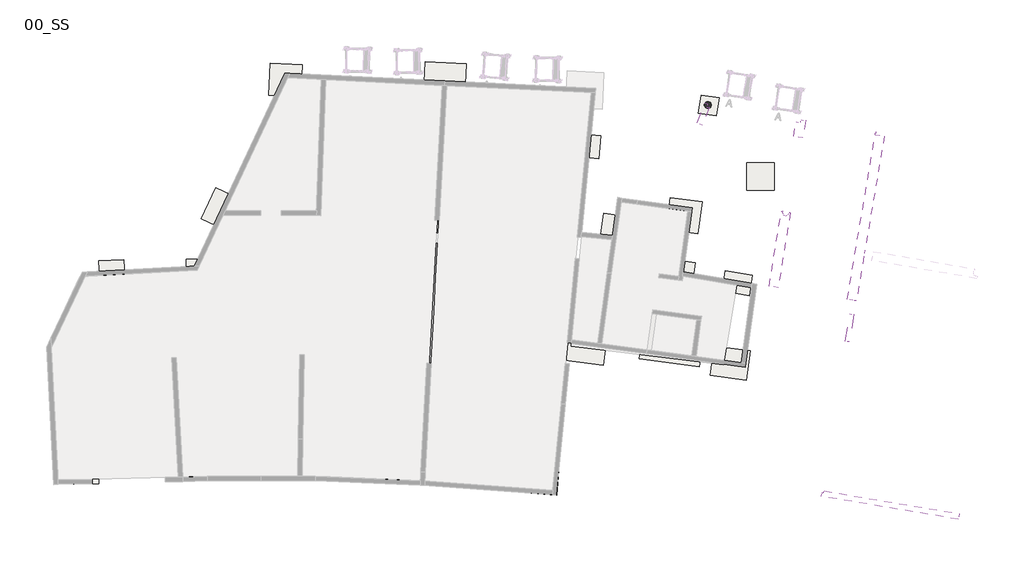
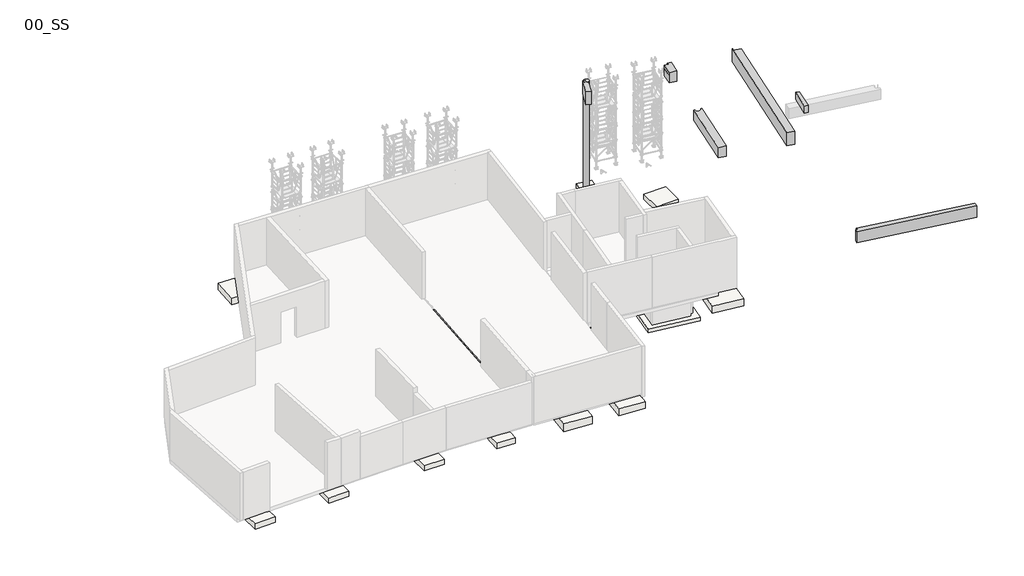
# One storey, part 2 of 4: 27 slabs, 8 beams, 1 column.
"""IFC4 building model written with IfcOpenShell, lengths in millimetres."""

import ifcopenshell
import ifcopenshell.guid

model = None  # the IFC model being written
_history = None  # IfcOwnerHistory: only IFC2X3 demands one
_inside = {}  # id of a spatial element -> (the spatial element, [elements in it])
_under = {}  # id of a project, library or spatial element -> (it, [spatial elements below it])
_declared = {}  # id of a project -> (the project, [libraries it declares])
_typed = {}  # id of a type object -> (the type object, [elements of that type])
_made_of = {}  # id of a material, layer set ... -> (it, [elements and type objects made of it])


def new_model(schema):
    """Start an empty IFC model of exactly this schema.

    Asked for "IFC4X3", IfcOpenShell would pick the latest addendum, in which some entities
    have other attributes; the version numbers below select the first issue.
    IFC2X3 requires an IfcOwnerHistory on every rooted entity: one is made here for all.
    """
    global model, _history
    if schema == "IFC4X3":
        model = ifcopenshell.file(schema_version=(4, 3, 0, 0))
    else:
        model = ifcopenshell.file(schema=schema)
    _inside.clear()
    _under.clear()
    _declared.clear()
    _typed.clear()
    _made_of.clear()
    _history = None
    if model.schema == "IFC2X3":
        org = make("IfcOrganization", Name="unknown")
        user = make(
            "IfcPersonAndOrganization",
            ThePerson=make("IfcPerson", FamilyName="unknown"),
            TheOrganization=org,
        )
        app = make(
            "IfcApplication",
            ApplicationDeveloper=org,
            Version="unknown",
            ApplicationFullName="unknown",
            ApplicationIdentifier="unknown",
        )
        _history = make(
            "IfcOwnerHistory",
            OwningUser=user,
            OwningApplication=app,
            ChangeAction="ADDED",
            CreationDate=0,
        )
    return model


def make(cls, **values):
    """One entity of the class cls with the attributes given. An attribute that is None is left unset."""
    return model.create_entity(
        cls, **{name: value for name, value in values.items() if value is not None}
    )


def rooted(cls, **values):
    """An entity with a GlobalId (a new one), such as an element, a storey or a relation."""
    return make(cls, GlobalId=ifcopenshell.guid.new(), OwnerHistory=_history, **values)


def si_unit(unit_type, name, prefix=None):
    """IfcSIUnit, for example si_unit("LENGTHUNIT", "METRE", prefix="MILLI")."""
    return make("IfcSIUnit", UnitType=unit_type, Prefix=prefix, Name=name)


def assignment(units):
    """IfcUnitAssignment: the units of a project."""
    return None if units is None else make("IfcUnitAssignment", Units=units)


def point(xyz):
    """IfcCartesianPoint."""
    return None if xyz is None else make("IfcCartesianPoint", Coordinates=xyz)


def direction(xyz):
    """IfcDirection."""
    return None if xyz is None else make("IfcDirection", DirectionRatios=xyz)


def frame(location, z_axis=None, x_axis=None):
    """IfcAxis2Placement3D, a coordinate frame: its origin and axes. An axis left out is left unset."""
    return make(
        "IfcAxis2Placement3D",
        Location=point(location),
        Axis=direction(z_axis),
        RefDirection=direction(x_axis),
    )


def frame_2d(location, x_axis=None):
    """IfcAxis2Placement2D, a coordinate frame in the plane: its origin and x axis."""
    return make(
        "IfcAxis2Placement2D", Location=point(location), RefDirection=direction(x_axis)
    )


def origin():
    """The frame at (0, 0, 0) with its axes left unset."""
    return frame((0.0, 0.0, 0.0))


def place(relative_to, where):
    """IfcLocalPlacement: puts the frame where relative to a parent placement (None: the world)."""
    return make(
        "IfcLocalPlacement", PlacementRelTo=relative_to, RelativePlacement=where
    )


def context(
    kind, dimensions, precision=None, world=None, true_north=None, identifier=None
):
    """IfcGeometricRepresentationContext, for example the 3D "Model" context."""
    return make(
        "IfcGeometricRepresentationContext",
        ContextIdentifier=identifier,
        ContextType=kind,
        CoordinateSpaceDimension=dimensions,
        Precision=precision,
        WorldCoordinateSystem=world,
        TrueNorth=true_north,
    )


def project(units=None, contexts=None):
    """IfcProject with its units and contexts."""
    return rooted(
        "IfcProject",
        Name="project",
        RepresentationContexts=contexts,
        UnitsInContext=assignment(units),
    )


def spatial(cls, under=None, at=None, **own):
    """A site, building, storey or space (cls), placed at a placement, below another one or the project."""
    s = rooted(cls, ObjectPlacement=at, **own)
    if under is not None:
        _under.setdefault(under.id(), (under, []))[1].append(s)
    return s


def polyline(points):
    """IfcPolyline through the points."""
    return make("IfcPolyline", Points=[point(p) for p in points])


def circle_curve(where, radius):
    """IfcCircle in the frame where."""
    return make("IfcCircle", Position=where, Radius=radius)


def trimmed(basis, trim1, trim2, sense, master):
    """IfcTrimmedCurve: the piece of a basis curve between two trims."""
    return make(
        "IfcTrimmedCurve",
        BasisCurve=basis,
        Trim1=trim1,
        Trim2=trim2,
        SenseAgreement=sense,
        MasterRepresentation=master,
    )


def segment(curve, same_sense, transition):
    """IfcCompositeCurveSegment."""
    return make(
        "IfcCompositeCurveSegment",
        Transition=transition,
        SameSense=same_sense,
        ParentCurve=curve,
    )


def composite_curve(segments, self_intersect=None):
    """IfcCompositeCurve: segments joined end to end."""
    return make("IfcCompositeCurve", Segments=segments, SelfIntersect=self_intersect)


def outline(outer, holes=None, kind="AREA"):
    """IfcArbitraryClosedProfileDef: a profile drawn as a closed curve; with holes, ...WithVoids."""
    if holes is None:
        return make("IfcArbitraryClosedProfileDef", ProfileType=kind, OuterCurve=outer)
    return make(
        "IfcArbitraryProfileDefWithVoids",
        ProfileType=kind,
        OuterCurve=outer,
        InnerCurves=holes,
    )


def extrude(swept, where, along, depth):
    """IfcExtrudedAreaSolid: the profile swept, set in the frame where, extruded along a direction by depth."""
    return make(
        "IfcExtrudedAreaSolid",
        SweptArea=swept,
        Position=where,
        ExtrudedDirection=direction(along),
        Depth=depth,
    )


def faces_of(points, faces, orient=None, outer=None):
    """IfcFace entities. A face is a list of loops; a loop is a list of indices into points, from 0.

    orient and outer hold one flag for each loop. By default every Orientation is true, the
    first loop of a face is its IfcFaceOuterBound and the others are IfcFaceBound.
    """
    made = []
    for i, loops in enumerate(faces):
        bounds = []
        for j, loop in enumerate(loops):
            is_outer = j == 0 if outer is None else outer[i][j]
            bounds.append(
                make(
                    "IfcFaceOuterBound" if is_outer else "IfcFaceBound",
                    Bound=make("IfcPolyLoop", Polygon=[points[k] for k in loop]),
                    Orientation=True if orient is None else orient[i][j],
                )
            )
        made.append(make("IfcFace", Bounds=bounds))
    return made


def faceted_brep(points, faces, orient=None, outer=None, voids=None):
    """IfcFacetedBrep: a solid bounded by flat faces; with voids (closed shells), ...WithVoids."""
    shared = [point(p) for p in points]
    hull = make("IfcClosedShell", CfsFaces=faces_of(shared, faces, orient, outer))
    if voids is None:
        return make("IfcFacetedBrep", Outer=hull)
    return make(
        "IfcFacetedBrepWithVoids",
        Outer=hull,
        Voids=[
            make(cls, CfsFaces=faces_of(shared, fs, o, b)) for cls, fs, o, b in voids
        ],
    )


def shape(context_of_items, identifier, shape_type, items):
    """IfcShapeRepresentation: the items that make up one representation, for example the "Body"."""
    return make(
        "IfcShapeRepresentation",
        ContextOfItems=context_of_items,
        RepresentationIdentifier=identifier,
        RepresentationType=shape_type,
        Items=items,
    )


def source(mapping_origin, context_of_items, identifier, shape_type, items):
    """IfcRepresentationMap: a shape defined once, which mapped items show again and again."""
    return make(
        "IfcRepresentationMap",
        MappingOrigin=mapping_origin,
        MappedRepresentation=shape(context_of_items, identifier, shape_type, items),
    )


def transform(
    local_origin,
    x_axis=None,
    y_axis=None,
    z_axis=None,
    scale=None,
    scale2=None,
    scale3=None,
    uniform=True,
):
    """IfcCartesianTransformationOperator3D, or its non-uniform kind. x_axis, y_axis, z_axis: its Axis1, 2, 3."""
    if uniform:
        return make(
            "IfcCartesianTransformationOperator3D",
            Axis1=direction(x_axis),
            Axis2=direction(y_axis),
            LocalOrigin=point(local_origin),
            Scale=scale,
            Axis3=direction(z_axis),
        )
    return make(
        "IfcCartesianTransformationOperator3DnonUniform",
        Axis1=direction(x_axis),
        Axis2=direction(y_axis),
        LocalOrigin=point(local_origin),
        Scale=scale,
        Axis3=direction(z_axis),
        Scale2=scale2,
        Scale3=scale3,
    )


def mapped(mapping_source, mapping_target):
    """IfcMappedItem: shows the shape of a source again, moved by a transform."""
    return make(
        "IfcMappedItem", MappingSource=mapping_source, MappingTarget=mapping_target
    )


def made_of(thing, what):
    """Note that an element or type object is made of a material, layer set ...; save() writes the relation."""
    if what is not None:
        _made_of.setdefault(what.id(), (what, []))[1].append(thing)
    return thing


def element(
    cls,
    number,
    at=None,
    inside=None,
    cuts=None,
    type_object=None,
    material=None,
    context=None,
    identifier="Body",
    shape_type=None,
    held_by="IfcProductDefinitionShape",
    body=None,
    shapes=None,
    **own,
):
    """One element of the class cls, such as IfcWall. Its Tag is "e" and its number.

    at: its placement. inside: the storey or other place that contains it. cuts: it is an
    opening in that element (IfcRelVoidsElement). A single representation is given by context,
    identifier, shape_type and body (its items); several are given by shapes. held_by: the class
    of the entity that holds the representations. save() writes the other relations.
    """
    e = rooted(cls, Tag="e%d" % number, ObjectPlacement=at, **own)
    if body is not None:
        shapes = [shape(context, identifier, shape_type, body)]
    if shapes is not None:
        e.Representation = make(held_by, Representations=shapes)
    if inside is not None:
        _inside.setdefault(inside.id(), (inside, []))[1].append(e)
    if cuts is not None:
        rooted(
            "IfcRelVoidsElement", RelatingBuildingElement=cuts, RelatedOpeningElement=e
        )
    if type_object is not None:
        _typed.setdefault(type_object.id(), (type_object, []))[1].append(e)
    return made_of(e, material)


def aggregate(whole, parts):
    """IfcRelAggregates: a whole, such as a stair, and the parts it consists of."""
    return rooted("IfcRelAggregates", RelatingObject=whole, RelatedObjects=parts)


def save(model, path):
    """Write the relations noted so far, then the file.

    IfcRelAggregates (storeys below a building ...), IfcRelContainedInSpatialStructure (elements
    in a storey), IfcRelDefinesByType, IfcRelAssociatesMaterial and IfcRelDeclares: one each for
    every whole, place, type object, material and project.
    """
    for whole, parts in _under.values():
        aggregate(whole, parts)
    for where, things in _inside.values():
        rooted(
            "IfcRelContainedInSpatialStructure",
            RelatedElements=things,
            RelatingStructure=where,
        )
    for kind, things in _typed.values():
        rooted("IfcRelDefinesByType", RelatedObjects=things, RelatingType=kind)
    for what, things in _made_of.values():
        rooted("IfcRelAssociatesMaterial", RelatedObjects=things, RelatingMaterial=what)
    for by, libraries in _declared.values():
        rooted("IfcRelDeclares", RelatingContext=by, RelatedDefinitions=libraries)
    model.write(path)


def plane_surface(at):
    """IfcPlane: the flat surface through the origin of the frame at, square to its z axis."""
    return make("IfcPlane", Position=at)


def cylinder_surface(at, radius):
    """IfcCylindricalSurface: all points at the distance radius from the z axis of the frame at."""
    return make("IfcCylindricalSurface", Position=at, Radius=radius)


def revolved_surface(curve, axis_point, axis_direction):
    """IfcSurfaceOfRevolution: the curve turned about the line through axis_point along axis_direction."""
    return make(
        "IfcSurfaceOfRevolution",
        SweptCurve=make("IfcArbitraryOpenProfileDef", ProfileType="CURVE", Curve=curve),
        AxisPosition=make("IfcAxis1Placement", Location=point(axis_point), Axis=direction(axis_direction)),
    )


def advanced_brep(points, edges, surfaces, faces):
    """IfcAdvancedBrep: a solid bounded by faces that lie on surfaces and meet in shared edges.

    An edge is (start, end): straight between two places in points (the first is 0);
    or (start, end, curve); or (start, end, curve, False) where it runs against its curve.
    A face is (place in surfaces, loops), or (place, loops, False) where it looks against
    its surface's normal. A loop lists edges by number (the first is 1), with a minus sign
    where the edge is run from its end to its start. The first loop is the outer one.
    """
    corners = [point(p) for p in points]
    vertices = [make("IfcVertexPoint", VertexGeometry=c) for c in corners]
    made = []
    for start, end, *more in edges:
        made.append(
            make(
                "IfcEdgeCurve",
                EdgeStart=vertices[start],
                EdgeEnd=vertices[end],
                EdgeGeometry=more[0] if more else make("IfcPolyline", Points=[corners[start], corners[end]]),
                SameSense=more[1] if len(more) > 1 else True,
            )
        )
    hull = []
    for where, loops, *sense in faces:
        bounds = []
        for j, loop in enumerate(loops):
            ring = [make("IfcOrientedEdge", EdgeElement=made[abs(k) - 1], Orientation=k > 0) for k in loop]
            bounds.append(
                make(
                    "IfcFaceOuterBound" if j == 0 else "IfcFaceBound",
                    Bound=make("IfcEdgeLoop", EdgeList=ring),
                    Orientation=True,
                )
            )
        hull.append(make("IfcAdvancedFace", Bounds=bounds, FaceSurface=surfaces[where], SameSense=sense[0] if sense else True))
    return make("IfcAdvancedBrep", Outer=make("IfcClosedShell", CfsFaces=hull))


def base_rectangulaire_120x120x30_ht_74231e7a(model_context):
    return source(origin(), model_context, "Body", "SweptSolid", [
        extrude(outline(polyline([(600.0, 600.0), (600.0, -600.0), (-600.0, -600.0), (-600.0, 600.0), (600.0, 600.0)])), frame((0.0, 0.0, -300.0), z_axis=(0.0, 0.0, 1.0), x_axis=(1.0, 0.0, 0.0)), (0.0, 0.0, 1.0), 300.0),
        extrude(outline(polyline([(600.0, 600.0), (600.0, -600.0), (-600.0, -600.0), (-600.0, 600.0), (600.0, 600.0)])), frame((0.0, 0.0, -300.0), z_axis=(0.0, 0.0, 1.0), x_axis=(1.0, 0.0, 0.0)), (0.0, 0.0, 1.0), 300.0),
    ])


def base_rectangulaire_80x80x25_cm_97e52a6d(model_context):
    return source(origin(), model_context, "Body", "SweptSolid", [
        extrude(outline(polyline([(400.0, 400.0), (400.0, -400.0), (-400.0, -400.0), (-400.0, 400.0), (400.0, 400.0)])), frame((0.0, 0.0, -250.0), z_axis=(0.0, 0.0, 1.0), x_axis=(1.0, 0.0, 0.0)), (0.0, 0.0, 1.0), 250.0),
        extrude(outline(polyline([(400.0, 400.0), (400.0, -400.0), (-400.0, -400.0), (-400.0, 400.0), (400.0, 400.0)])), frame((0.0, 0.0, -250.0), z_axis=(0.0, 0.0, 1.0), x_axis=(1.0, 0.0, 0.0)), (0.0, 0.0, 1.0), 250.0),
    ])


model = new_model("IFC4")

# Units and contexts
model_context = context("Model", 3, world=origin())
ifc_project = project(units=[si_unit("LENGTHUNIT", "METRE", prefix="MILLI")], contexts=[model_context])

# Site, building, storey
site = spatial("IfcSite", under=ifc_project)
building = spatial("IfcBuilding", under=site)
storey = spatial("IfcBuildingStorey", under=building, Name="00_SS", Elevation=18790.0)

# Beams
placement = place(None, origin())
element("IfcBeam", 1, ObjectType="Poutre_Rect_2013_JBE : 18x40ht", at=placement, inside=storey, context=model_context, shape_type="SweptSolid", body=[
    extrude(outline(polyline([(17601.2414169, 6572.4223416), (17778.7010793, 6542.2881711), (17574.2069358, 5338.0253348), (17396.7472734, 5368.1595053), (17601.2414169, 6572.4223416)])), frame((0.0, 0.0, 26740.0), z_axis=(0.0, 0.0, 1.0), x_axis=(1.0, 0.0, 0.0)), (0.0, 0.0, 1.0), 400.0),
])
element("IfcBeam", 2, ObjectType="Poutre_Rect_2013_JBE : 20x30ht", at=placement, inside=storey, context=model_context, shape_type="Brep", body=[
    faceted_brep([(-615.0365712, 10667.0527318, 18790.0), (-615.0365712, 10667.0527318, 18490.0), (-415.3478317, 10655.8989288, 18490.0), (-415.3478317, 10655.8989288, 18790.0), (-419.7542084, 10656.1450511, 18790.0), (-504.6637613, 10660.8877544, 18790.0), (-598.3058999, 10966.5852469, 18790.0), (-323.2184248, 15891.5306771, 18790.0), (-323.2184248, 15891.5306771, 18490.0), (-598.3058999, 10966.5852469, 18490.0), (-123.5296853, 15880.3768741, 18490.0), (-398.6172116, 10955.4305282, 18490.0), (-123.5296853, 15880.3768741, 18790.0), (-398.6172116, 10955.4305282, 18790.0)], [[[0, 1, 2, 3, 4, 5]], [[1, 0, 6, 7, 8, 9]], [[2, 1, 9, 8, 10, 11]], [[3, 2, 11, 10, 12, 13]], [[0, 5, 4, 3, 13, 12, 7, 6]], [[7, 12, 10, 8]]]),
])
element("IfcBeam", 3, ObjectType="Poutre_Rect_2013_JBE : 25x65ht", at=placement, inside=storey, context=model_context, shape_type="Brep", body=[
    faceted_brep([(16344.3743046, -1433.5815692, 24340.0), (16344.3743046, -1433.5815692, 24280.0), (16344.3743046, -1433.5815692, 23690.0), (22361.9624906, -2445.4482204, 23690.0), (22361.9624906, -2445.4482204, 24340.0), (16371.1345917, -1275.9195319, 23690.0), (16450.0385, -1289.1183842, 23690.0), (16465.1015456, -1200.3723087, 23690.0), (22403.4183767, -2198.9093604, 23690.0), (16465.1015456, -1200.3723087, 24240.0), (16465.1015456, -1200.3723087, 24340.0), (22403.4183767, -2198.9093604, 24340.0), (16371.1345917, -1275.9195319, 24340.0), (16450.0385, -1289.1183842, 24340.0)], [[[0, 1, 2, 3, 4]], [[2, 5, 6, 7, 8, 3]], [[7, 9, 10, 11, 8]], [[12, 0, 4, 11, 10, 13]], [[5, 2, 1, 0, 12]], [[7, 6, 13, 10, 9]], [[6, 5, 12, 13]], [[4, 3, 8, 11]]]),
])
element("IfcBeam", 4, ObjectType="Poutre_Rect_2013_JBE : 25x75ht", at=placement, inside=storey, context=model_context, shape_type="Brep", body=[
    faceted_brep([(10895.3530696, 14941.286648, 24440.0), (11243.8153276, 15825.0705892, 24440.0), (11243.8153276, 15825.0705892, 23690.0), (10895.3530696, 14941.286648, 23690.0), (11351.253548, 15782.7093704, 23690.0), (11327.9243381, 15640.5543865, 23690.0), (11432.9955156, 15623.3110406, 23690.0), (11127.9277909, 14849.5860537, 23690.0), (11432.9955156, 15623.3110406, 24240.0), (11432.9955156, 15623.3110406, 24440.0), (11127.9277909, 14849.5860537, 24440.0), (11127.9277909, 14849.5860537, 24240.0), (11327.9243381, 15640.5543865, 24440.0), (11351.253548, 15782.7093704, 24440.0)], [[[0, 1, 2, 3]], [[3, 2, 4, 5, 6, 7]], [[7, 6, 8, 9, 10, 11]], [[1, 0, 10, 9, 12, 13]], [[5, 12, 9, 8, 6]], [[12, 5, 4, 13]], [[2, 1, 13, 4]], [[0, 3, 7, 11, 10]]]),
])
element("IfcBeam", 5, ObjectType="Poutre_Rect_2013_JBE : 30x50ht", at=placement, inside=storey, context=model_context, shape_type="Brep", body=[
    faceted_brep([(-720.7337436, 9671.3974523, 18790.0), (-720.7337436, 9671.3974523, 18490.0), (-1031.3275086, 4111.2337961, 18490.0), (-1031.3275086, 4111.2337961, 18790.0), (-421.2007111, 9654.6653743, 18490.0), (-729.2137558, 4140.7010581, 18490.0), (-796.2003206, 4105.9568005, 18490.0), (-1004.6119708, 4183.2598212, 18490.0), (-421.2007111, 9654.6653743, 18790.0), (-729.2137558, 4140.7010581, 18790.0), (-560.139158, 9662.4265515, 18990.0), (-867.3943889, 4132.363753, 18990.0), (-796.2003206, 4105.9568005, 18990.0), (-782.8980776, 4112.8563416, 18990.0), (-638.6403533, 6688.9050649, 18990.0), (-558.7857365, 8167.2410971, 18990.0), (-475.5278851, 9657.7001198, 18990.0), (-560.139158, 9662.4265515, 18790.0), (-475.5278851, 9657.7001198, 18790.0), (-1004.6119708, 4183.2598212, 18790.0), (-867.3943889, 4132.363753, 18790.0), (-782.8980776, 4112.8563416, 18790.0), (-558.7857365, 8167.2410971, 18790.0), (-638.6403533, 6688.9050649, 18790.0)], [[[0, 1, 2, 3]], [[1, 4, 5, 6, 7, 2]], [[5, 4, 8, 9]], [[10, 11, 12, 13, 14, 15, 16]], [[4, 1, 0, 17, 10, 16, 18, 8]], [[17, 0, 3, 19, 20]], [[6, 5, 9, 21, 13, 12]], [[19, 7, 6, 12, 11, 20]], [[7, 19, 3, 2]], [[10, 17, 20, 11]], [[22, 23, 21, 9, 8, 18]], [[23, 14, 13, 21]], [[23, 22, 15, 14]], [[15, 22, 18, 16]]]),
])
element("IfcBeam", 6, ObjectType="Poutre_Rect_2013_JBE : 40x60ht", at=placement, inside=storey, context=model_context, shape_type="Brep", body=[
    faceted_brep([(15133.5018162, 14355.7236358, 23840.0), (15528.2022415, 14290.8269926, 23840.0), (15528.2022415, 14290.8269926, 24440.0), (15138.656606, 14354.8760852, 24440.0), (15138.656606, 14354.8760852, 24240.0), (15133.5018162, 14355.7236358, 24240.0), (15239.2147661, 14998.668235, 23840.0), (15239.2147661, 14998.668235, 24240.0), (15437.3736915, 14966.1481569, 23840.0), (15456.7095352, 15083.9698303, 23840.0), (15653.2962722, 15051.6470394, 23840.0), (15653.2962722, 15051.6470394, 24440.0), (15456.7095352, 15083.9698303, 24440.0), (15437.3736915, 14966.1481569, 24440.0), (15244.3698108, 14997.8222349, 24440.0), (15244.3698108, 14997.8222349, 24240.0)], [[[0, 1, 2, 3, 4, 5]], [[6, 0, 5, 7]], [[1, 0, 6, 8, 9, 10]], [[2, 1, 10, 11]], [[2, 11, 12, 13, 14, 3]], [[8, 6, 7, 15, 14, 13]], [[8, 13, 12, 9]], [[4, 15, 7, 5]], [[15, 4, 3, 14]], [[11, 10, 9, 12]]]),
])
element("IfcBeam", 7, ObjectType="Poutre_Rect_2013_JBE : 40x60ht", at=placement, inside=storey, context=model_context, shape_type="AdvancedBrep", body=[
    advanced_brep(
    [(14594.2911103, 11072.2641399, 24440.0), (14594.2911103, 11072.2641399, 23840.0), (14053.4031485, 7781.910053, 23840.0), (14053.4031485, 7781.910053, 24440.0), (14637.8488783, 11020.1854275, 23840.0), (14937.7847176, 11015.7986191, 23840.0), (14988.9936872, 11007.3805843, 23840.0), (14447.7682174, 7714.9733538, 23840.0), (14644.3988688, 11064.0271287, 23840.0), (14988.9936872, 11007.3805843, 24440.0), (14447.7682174, 7714.9733538, 24440.0), (14937.7847176, 11015.7986191, 24440.0), (14637.8488783, 11020.1854275, 24440.0), (14644.3988688, 11064.0271287, 24440.0), (14644.3988688, 11064.0271287, 23940.0), (14637.8488783, 11020.1854275, 23940.0), (14937.7847176, 11015.7986191, 23940.0)],
    [
        (0, 1),
        (1, 2),
        (2, 3),
        (3, 0),
        (4, 5, circle_curve(frame((14787.8488783, 11020.1854275, 23840.0), z_axis=(0.0, 0.0, 1.0), x_axis=(1.0, 0.0, 0.0)), 150.0)),
        (5, 6),
        (6, 7),
        (7, 2),
        (1, 8),
        (8, 4, circle_curve(frame((14787.8488783, 11020.1854275, 23840.0), z_axis=(0.0, 0.0, 1.0), x_axis=(1.0, 0.0, 0.0)), 150.0)),
        (6, 9),
        (9, 10),
        (10, 7),
        (11, 12, circle_curve(frame((14787.8488783, 11020.1854275, 24440.0), z_axis=(0.0, 0.0, -1.0), x_axis=(1.0, 0.0, 0.0)), 150.0)),
        (12, 13, circle_curve(frame((14787.8488783, 11020.1854275, 24440.0), z_axis=(0.0, 0.0, -1.0), x_axis=(1.0, 0.0, 0.0)), 150.0)),
        (13, 0),
        (3, 10),
        (9, 11),
        (13, 14),
        (14, 8),
        (15, 4),
        (14, 15, circle_curve(frame((14787.8488783, 11020.1854275, 23940.0), z_axis=(0.0, 0.0, 1.0), x_axis=(1.0, 0.0, 0.0)), 150.0)),
        (15, 16, circle_curve(frame((14787.8488783, 11020.1854275, 23940.0), z_axis=(0.0, 0.0, 1.0), x_axis=(1.0, 0.0, 0.0)), 150.0)),
        (16, 5),
        (15, 12),
        (11, 16),
    ],
    [
        plane_surface(frame((14040.2575078, 7701.9418979, 24440.0), z_axis=(-0.9867564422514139, 0.16220888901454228, 0.0), x_axis=(0.16220888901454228, 0.9867564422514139, 0.0))),
        plane_surface(frame((14040.2575078, 7701.9418979, 23840.0), z_axis=(0.0, 0.0, -1.0), x_axis=(0.16220888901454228, 0.9867564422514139, 0.0))),
        plane_surface(frame((14434.9600847, 7637.0583423, 23840.0), z_axis=(0.9867564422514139, -0.16220888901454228, 0.0), x_axis=(0.16220888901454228, 0.9867564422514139, 0.0))),
        plane_surface(frame((14434.9600847, 7637.0583423, 24440.0), z_axis=(0.0, 0.0, 1.0), x_axis=(0.16220888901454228, 0.9867564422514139, 0.0))),
        plane_surface(frame((14791.6423988, 11039.8223621, 24440.0), z_axis=(0.16220888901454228, 0.9867564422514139, 0.0), x_axis=(0.9867564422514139, -0.16220888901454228, 0.0))),
        plane_surface(frame((17682.2526221, 7165.9751622, 21740.0), z_axis=(-0.16733948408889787, -0.9858993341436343, 0.0), x_axis=(-0.9858993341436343, 0.16733948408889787, 0.0))),
        revolved_surface(polyline([(14937.8488783, 11020.1854275, 23940.0), (14937.8488783, 11020.1854275, 23840.0)]), (14787.8488783, 11020.1854275, 21470.0), (0.0, 0.0, 1.0)),
        revolved_surface(polyline([(14937.8488783, 11020.1854275, 24440.0), (14937.8488783, 11020.1854275, 23940.0)]), (14787.8488783, 11020.1854275, 23940.0), (0.0, 0.0, 1.0)),
    ],
    [
        (0, [[1, 2, 3, 4]]),
        (1, [[5, 6, 7, 8, -2, 9, 10]]),
        (2, [[11, 12, 13, -7]]),
        (3, [[14, 15, 16, -4, 17, -12, 18]]),
        (4, [[-1, -16, 19, 20, -9]]),
        (5, [[-3, -8, -13, -17]]),
        (6, [[21, -10, -20, 22]]),
        (6, [[-5, -21, 23, 24]]),
        (7, [[25, -14, 26, -23]]),
        (7, [[-25, -22, -19, -15]]),
        (4, [[-11, -6, -24, -26, -18]]),
    ],
),
])
element("IfcBeam", 8, ObjectType="Poutre_Rect_2013_JBE : 40x75ht", at=placement, inside=storey, context=model_context, shape_type="Brep", body=[
    faceted_brep([(17485.0970324, 7199.4389384, 24440.0), (18712.6281716, 14431.6269208, 24440.0), (18733.5457775, 14554.8662042, 24440.0), (18733.5457775, 14554.8662042, 23690.0), (18712.6281716, 14431.6269208, 23690.0), (17485.0970324, 7199.4389384, 23690.0), (18742.8117287, 14553.3455588, 23690.0), (18722.568629, 14429.9955815, 23690.0), (19107.3540005, 14366.8480331, 23690.0), (17879.456766, 7132.5031448, 23690.0), (17879.456766, 7132.5031448, 24440.0), (17879.456766, 7132.5031448, 24240.0), (19107.3540005, 14366.8480331, 24440.0), (18258.6031816, 9366.3024045, 24440.0), (18191.6677399, 8971.9419836, 24440.0), (17721.7129548, 7159.2774482, 24440.0), (18722.568629, 14429.9955815, 24440.0), (18742.8117287, 14553.3455588, 24440.0)], [[[0, 1, 2, 3, 4, 5]], [[5, 4, 3, 6, 7, 8, 9]], [[10, 11, 9, 8, 12, 13, 14]], [[2, 1, 0, 15, 10, 14, 13, 12, 16, 17]], [[0, 5, 9, 11, 10, 15]], [[3, 2, 17, 6]], [[7, 16, 12, 8]], [[16, 7, 6, 17]]]),
])

# Column
element("IfcColumn", 9, ObjectType="Pot_Circ_2013_JBE : diametre 30", at=placement, inside=storey, context=model_context, shape_type="SolidModel", body=[
    advanced_brep(
    [(11516.7226919, 15729.4730378, 24440.0), (11367.1289147, 15879.4724597, 24440.0), (11216.7226919, 15729.4730378, 24440.0), (11419.4913594, 15589.0612586, 24440.0), (11432.9955177, 15623.3110459, 24440.0), (11466.8231345, 15617.7595587, 24440.0), (11216.7226919, 15729.4730378, 23790.0), (11516.7226919, 15729.4730378, 23790.0), (11466.8231345, 15617.7595587, 24240.0), (11419.4913594, 15589.0612586, 24240.0), (11432.9955177, 15623.3110459, 24240.0)],
    [
        (0, 1, circle_curve(frame((11366.7226919, 15729.4730378, 24440.0), z_axis=(0.0, 0.0, 1.0), x_axis=(1.0, 0.0, 0.0)), 150.0)),
        (1, 2, circle_curve(frame((11366.7226919, 15729.4730378, 24440.0), z_axis=(0.0, 0.0, 1.0), x_axis=(1.0, 0.0, 0.0)), 149.999972)),
        (2, 3, circle_curve(frame((11366.7226919, 15729.4730378, 24440.0), z_axis=(0.0, 0.0, 1.0), x_axis=(1.0, 0.0, 0.0)), 150.0)),
        (3, 4),
        (4, 5),
        (5, 0, circle_curve(frame((11366.7226919, 15729.4730378, 24440.0), z_axis=(0.0, 0.0, 1.0), x_axis=(1.0, 0.0, 0.0)), 150.0)),
        (2, 6),
        (6, 7, circle_curve(frame((11366.7226919, 15729.4730378, 23790.0), z_axis=(0.0, 0.0, 1.0), x_axis=(1.0, 0.0, 0.0)), 150.0)),
        (7, 0),
        (5, 8),
        (8, 9, circle_curve(frame((11366.7226919, 15729.4730378, 24240.0), z_axis=(0.0, 0.0, -1.0), x_axis=(1.0, 0.0, 0.0)), 150.0)),
        (9, 3),
        (7, 6, circle_curve(frame((11366.7226919, 15729.4730378, 23790.0), z_axis=(0.0, 0.0, 1.0), x_axis=(1.0, 0.0, 0.0)), 150.0)),
        (10, 9),
        (8, 10),
        (4, 10),
    ],
    [
        plane_surface(frame((11516.7226919, 15729.4730378, 24440.0), z_axis=(0.0, 0.0, 1.0), x_axis=(0.0, 1.0, 0.0))),
        cylinder_surface(frame((11366.7226919, 15729.4730378, 23790.0), z_axis=(0.0, 0.0, 1.0), x_axis=(1.0, 0.0, 0.0)), 150.0),
        plane_surface(frame((11516.7226919, 15729.4730378, 23790.0), z_axis=(0.0, 0.0, -1.0), x_axis=(0.0, -1.0, 0.0))),
        plane_surface(frame((11628.4159696, 15591.2403818, 24240.0), z_axis=(0.0, 0.0, 1.0000000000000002), x_axis=(0.9867998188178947, -0.16194479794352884, 0.0))),
        plane_surface(frame((11432.9955177, 15623.3110459, 24240.0), z_axis=(-0.16194479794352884, -0.9867998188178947, 0.0), x_axis=(0.0, 0.0, 1.0))),
        plane_surface(frame((9749.3306665, 11353.1327888, 24240.0), z_axis=(0.9302988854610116, -0.36680237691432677, 0.0), x_axis=(0.0, 0.0, 1.0))),
    ],
    [
        (0, [[1, 2, 3, 4, 5, 6]]),
        (1, [[7, 8, 9, -6, 10, 11, 12, -3]]),
        (1, [[13, -7, -2, -1, -9]]),
        (2, [[-13, -8]]),
        (3, [[14, -11, 15]]),
        (4, [[16, -15, -10, -5]]),
        (5, [[-16, -4, -12, -14]]),
    ],
),
    extrude(outline(composite_curve([segment(trimmed(circle_curve(frame_2d((11366.7226919, 15729.4730378)), 150.0), [point((11216.7226919, 15729.4730378))], [point((11516.7226919, 15729.4730378))], False, "CARTESIAN"), True, "CONTINUOUS"), segment(trimmed(circle_curve(frame_2d((11366.7226919, 15729.4730378)), 150.0), [point((11516.7226919, 15729.4730378))], [point((11216.7226919, 15729.4730378))], False, "CARTESIAN"), True, "CONTINUOUS")], self_intersect=False)), frame((0.0, 0.0, 18290.0), z_axis=(0.0, 0.0, 1.0), x_axis=(1.0, 0.0, 0.0)), (0.0, 0.0, 1.0), 5500.0),
])

# Slabs
element("IfcSlab", 10, ObjectType="Béton - 20 cm", at=placement, inside=storey, context=model_context, shape_type="SweptSolid", body=[
    extrude(outline(polyline([(10998.1031828, 4238.4631935), (8362.4468739, 4597.511688), (8694.4895228, 7034.9996735), (11377.86815, 6669.4609908), (10998.1031828, 4238.4631935)])), frame((0.0, 0.0, 17590.0), z_axis=(0.0, 0.0, 1.0), x_axis=(1.0, 0.0, 0.0)), (0.0, 0.0, 1.0), 200.0),
])
element("IfcSlab", 11, ObjectType="Base rectangulaire : 160x130x40 ht cm", at=placement, inside=storey, context=model_context, shape_type="SweptSolid", body=[
    extrude(outline(polyline([(11641.1523001, 5156.0952565), (13226.5103395, 4940.132558), (13051.0406469, 3652.029151), (11465.6826076, 3867.9918495), (11641.1523001, 5156.0952565)])), frame((0.0, 0.0, 18090.0), z_axis=(0.0, 0.0, 1.0), x_axis=(1.0, 0.0, 0.0)), (0.0, 0.0, 1.0), 400.0),
    extrude(outline(polyline([(11641.1523001, 5156.0952565), (13226.5103395, 4940.132558), (13051.0406469, 3652.029151), (11465.6826076, 3867.9918495), (11641.1523001, 5156.0952565)])), frame((0.0, 0.0, 18090.0), z_axis=(0.0, 0.0, 1.0), x_axis=(1.0, 0.0, 0.0)), (0.0, 0.0, 1.0), 400.0),
])
element("IfcSlab", 12, ObjectType="Base rectangulaire : 90 x120x30 ht cm", at=placement, inside=storey, context=model_context, shape_type="SweptSolid", body=[
    extrude(outline(polyline([(12142.1637763, 8459.788619), (13325.2429772, 8258.9812381), (13174.6374416, 7371.6718374), (11991.5582406, 7572.4792183), (12142.1637763, 8459.788619)])), frame((0.0, 0.0, 18190.0), z_axis=(0.0, 0.0, 1.0), x_axis=(1.0, 0.0, 0.0)), (0.0, 0.0, 1.0), 300.0),
    extrude(outline(polyline([(12142.1637763, 8459.788619), (13325.2429772, 8258.9812381), (13174.6374416, 7371.6718374), (11991.5582406, 7572.4792183), (12142.1637763, 8459.788619)])), frame((0.0, 0.0, 18190.0), z_axis=(0.0, 0.0, 1.0), x_axis=(1.0, 0.0, 0.0)), (0.0, 0.0, 1.0), 300.0),
])
element("IfcSlab", 13, ObjectType="Base rectangulaire : 100x100x30 cm", at=placement, inside=storey, context=model_context, shape_type="SweptSolid", body=[
    extrude(outline(polyline([(-2100.0395615, 93.6146434), (-2143.3162952, -905.4484799), (-3142.3794185, -862.1717463), (-3099.1026848, 136.891377), (-2100.0395615, 93.6146434)])), frame((0.0, 0.0, 18190.0), z_axis=(0.0, 0.0, 1.0), x_axis=(1.0, 0.0, 0.0)), (0.0, 0.0, 1.0), 300.0),
    extrude(outline(polyline([(-2100.0395615, 93.6146434), (-2143.3162952, -905.4484799), (-3142.3794185, -862.1717463), (-3099.1026848, 136.891377), (-2100.0395615, 93.6146434)])), frame((0.0, 0.0, 18190.0), z_axis=(0.0, 0.0, 1.0), x_axis=(1.0, 0.0, 0.0)), (0.0, 0.0, 1.0), 300.0),
])
element("IfcSlab", 14, ObjectType="Base rectangulaire : 100x100x30 cm", at=placement, inside=storey, context=model_context, shape_type="SweptSolid", body=[
    extrude(outline(polyline([(6678.2472345, 14375.2453769), (6580.9022693, 13379.9946759), (5585.6515683, 13477.3396411), (5682.9965335, 14472.590342), (6678.2472345, 14375.2453769)])), frame((0.0, 0.0, 18190.0), z_axis=(0.0, 0.0, 1.0), x_axis=(1.0, 0.0, 0.0)), (0.0, 0.0, 1.0), 300.0),
    extrude(outline(polyline([(6678.2472345, 14375.2453769), (6580.9022693, 13379.9946759), (5585.6515683, 13477.3396411), (5682.9965335, 14472.590342), (6678.2472345, 14375.2453769)])), frame((0.0, 0.0, 18190.0), z_axis=(0.0, 0.0, 1.0), x_axis=(1.0, 0.0, 0.0)), (0.0, 0.0, 1.0), 300.0),
])
element("IfcSlab", 15, ObjectType="Base rectangulaire : 110x110x30 cm", at=placement, inside=storey, context=model_context, shape_type="SweptSolid", body=[
    extrude(outline(polyline([(-5962.4839528, 351.9136404), (-5962.4839528, -748.0863596), (-7062.4839528, -748.0863596), (-7062.4839528, 351.9136404), (-5962.4839528, 351.9136404)])), frame((0.0, 0.0, 18190.0), z_axis=(0.0, 0.0, 1.0), x_axis=(1.0, 0.0, 0.0)), (0.0, 0.0, 1.0), 300.0),
    extrude(outline(polyline([(-5962.4839528, 351.9136404), (-5962.4839528, -748.0863596), (-7062.4839528, -748.0863596), (-7062.4839528, 351.9136404), (-5962.4839528, 351.9136404)])), frame((0.0, 0.0, 18190.0), z_axis=(0.0, 0.0, 1.0), x_axis=(1.0, 0.0, 0.0)), (0.0, 0.0, 1.0), 300.0),
])
element("IfcSlab", 16, ObjectType="Base rectangulaire : 110x110x30 cm", at=placement, inside=storey, context=model_context, shape_type="Brep", body=[
    faceted_brep([(-11252.6358814, 318.7224186, 18490.0), (-11713.5184211, 310.1816414, 18490.0), (-11913.6059768, 306.4737482, 18490.0), (-12352.4470539, 298.3414291, 18490.0), (-12335.7240826, -604.0735742, 18490.0), (-12332.0660644, -801.4697434, 18490.0), (-11811.9888178, -791.8320082, 18490.0), (-11232.2548919, -781.088754, 18490.0), (-11252.6358814, 318.7224186, 18190.0), (-11232.2548919, -781.088754, 18190.0), (-12332.0660644, -801.4697434, 18190.0), (-12352.4470539, 298.3414291, 18190.0), (-12332.0660644, -801.4697434, 18220.0)], [[[0, 1, 2, 3, 4, 5, 6, 7]], [[8, 9, 10, 11]], [[3, 2, 1, 0, 8, 11]], [[5, 4, 3, 11, 10, 12]], [[7, 6, 5, 12, 10, 9]], [[0, 7, 9, 8]]]),
    faceted_brep([(-11252.6358814, 318.7224186, 18490.0), (-11713.5184211, 310.1816414, 18490.0), (-11913.6059768, 306.4737482, 18490.0), (-12352.4470539, 298.3414291, 18490.0), (-12335.7240826, -604.0735742, 18490.0), (-12332.0660644, -801.4697434, 18490.0), (-11811.9888178, -791.8320082, 18490.0), (-11232.2548919, -781.088754, 18490.0), (-11252.6358814, 318.7224186, 18190.0), (-11232.2548919, -781.088754, 18190.0), (-12332.0660644, -801.4697434, 18190.0), (-12352.4470539, 298.3414291, 18190.0), (-12332.0660644, -801.4697434, 18220.0)], [[[0, 1, 2, 3, 4, 5, 6, 7]], [[8, 9, 10, 11]], [[3, 2, 1, 0, 8, 11]], [[5, 4, 3, 11, 10, 12]], [[7, 6, 5, 12, 10, 9]], [[0, 7, 9, 8]]]),
])
element("IfcSlab", 17, ObjectType="Base rectangulaire : 110x110x30 cm", at=placement, inside=storey, context=model_context, shape_type="Brep", body=[
    faceted_brep([(-15691.5762562, 5460.9788322, 18490.0), (-16786.0416263, 5571.1857, 18490.0), (-16896.2484941, 4476.7203299, 18490.0), (-16300.25442, 4416.7068823, 18490.0), (-16098.5940079, 4396.4007466, 18490.0), (-15801.783124, 4366.5134621, 18490.0), (-15691.5762562, 5460.9788322, 18190.0), (-15801.783124, 4366.5134621, 18190.0), (-16896.2484941, 4476.7203299, 18190.0), (-16786.0416263, 5571.1857, 18190.0)], [[[0, 1, 2, 3, 4, 5]], [[6, 7, 8, 9]], [[1, 0, 6, 9]], [[2, 1, 9, 8]], [[5, 4, 3, 2, 8, 7]], [[0, 5, 7, 6]]]),
    faceted_brep([(-15691.5762562, 5460.9788322, 18490.0), (-16786.0416263, 5571.1857, 18490.0), (-16896.2484941, 4476.7203299, 18490.0), (-16300.25442, 4416.7068823, 18490.0), (-16098.5940079, 4396.4007466, 18490.0), (-15801.783124, 4366.5134621, 18490.0), (-15691.5762562, 5460.9788322, 18190.0), (-15801.783124, 4366.5134621, 18190.0), (-16896.2484941, 4476.7203299, 18190.0), (-16786.0416263, 5571.1857, 18190.0)], [[[0, 1, 2, 3, 4, 5]], [[6, 7, 8, 9]], [[1, 0, 6, 9]], [[2, 1, 9, 8]], [[5, 4, 3, 2, 8, 7]], [[0, 5, 7, 6]]]),
])
element("IfcSlab", 18, ObjectType="Base rectangulaire : 110x110x30 cm", at=placement, inside=storey, context=model_context, shape_type="Brep", body=[
    faceted_brep([(-15366.7308978, 225.5796802, 18490.0), (-15837.0468051, 213.7568628, 18490.0), (-16037.1229394, 208.7273421, 18490.0), (-16466.383506, 197.9365752, 18490.0), (-16438.740401, -901.716033, 18490.0), (-15339.0877928, -874.072928, 18490.0), (-15366.7308978, 225.5796802, 18190.0), (-15339.0877928, -874.072928, 18190.0), (-16438.740401, -901.716033, 18190.0), (-16466.383506, 197.9365752, 18190.0)], [[[0, 1, 2, 3, 4, 5]], [[6, 7, 8, 9]], [[3, 2, 1, 0, 6, 9]], [[4, 3, 9, 8]], [[5, 4, 8, 7]], [[0, 5, 7, 6]]]),
    faceted_brep([(-15366.7308978, 225.5796802, 18490.0), (-15837.0468051, 213.7568628, 18490.0), (-16037.1229394, 208.7273421, 18490.0), (-16466.383506, 197.9365752, 18490.0), (-16438.740401, -901.716033, 18490.0), (-15339.0877928, -874.072928, 18490.0), (-15366.7308978, 225.5796802, 18190.0), (-15339.0877928, -874.072928, 18190.0), (-16438.740401, -901.716033, 18190.0), (-16466.383506, 197.9365752, 18190.0)], [[[0, 1, 2, 3, 4, 5]], [[6, 7, 8, 9]], [[3, 2, 1, 0, 6, 9]], [[4, 3, 9, 8]], [[5, 4, 8, 7]], [[0, 5, 7, 6]]]),
])
element("IfcSlab", 19, ObjectType="Base rectangulaire : 110x110x30 cm", at=placement, inside=storey, context=model_context, shape_type="SweptSolid", body=[
    extrude(outline(polyline([(-14248.9828309, 8949.278657), (-14190.2314006, 7850.848746), (-15288.6613116, 7792.0973157), (-15347.4127419, 8890.5272267), (-14248.9828309, 8949.278657)])), frame((0.0, 0.0, 17990.0), z_axis=(0.0, 0.0, 1.0), x_axis=(1.0, 0.0, 0.0)), (0.0, 0.0, 1.0), 300.0),
    extrude(outline(polyline([(-14248.9828309, 8949.278657), (-14190.2314006, 7850.848746), (-15288.6613116, 7792.0973157), (-15347.4127419, 8890.5272267), (-14248.9828309, 8949.278657)])), frame((0.0, 0.0, 17990.0), z_axis=(0.0, 0.0, 1.0), x_axis=(1.0, 0.0, 0.0)), (0.0, 0.0, 1.0), 300.0),
])
element("IfcSlab", 20, ObjectType="Base rectangulaire : 110x110x30 cm", at=placement, inside=storey, context=model_context, shape_type="SweptSolid", body=[
    extrude(outline(polyline([(10814.7638481, 8803.9900413), (10665.2901213, 7714.1929937), (9575.4930737, 7863.6667206), (9724.9668005, 8953.4637682), (10814.7638481, 8803.9900413)])), frame((0.0, 0.0, 18190.0), z_axis=(0.0, 0.0, 1.0), x_axis=(1.0, 0.0, 0.0)), (0.0, 0.0, 1.0), 300.0),
    extrude(outline(polyline([(10814.7638481, 8803.9900413), (10665.2901213, 7714.1929937), (9575.4930737, 7863.6667206), (9724.9668005, 8953.4637682), (10814.7638481, 8803.9900413)])), frame((0.0, 0.0, 18190.0), z_axis=(0.0, 0.0, 1.0), x_axis=(1.0, 0.0, 0.0)), (0.0, 0.0, 1.0), 300.0),
])
base_rectangulaire_120x120x30_ht_shape = base_rectangulaire_120x120x30_ht_74231e7a(model_context)
element("IfcSlab", 21, ObjectType="Base rectangulaire : 120x120x30 ht", at=placement, inside=storey, context=model_context, shape_type="MappedRepresentation", body=[
    mapped(base_rectangulaire_120x120x30_ht_shape, transform((13679.5992344, 12587.6283744, 18790.0), x_axis=(1.0, 0.0, 0.0), y_axis=(0.0, 1.0, 0.0), z_axis=(0.0, 0.0, 1.0))),
])
element("IfcSlab", 22, ObjectType="Base rectangulaire : 130x130x35 cm", at=placement, inside=storey, context=model_context, shape_type="SweptSolid", body=[
    extrude(outline(polyline([(-11427.0408784, 5224.397216), (-11358.1786864, 3926.2223439), (-12656.3535584, 3857.3601519), (-12725.2157505, 5155.5350239), (-11427.0408784, 5224.397216)])), frame((0.0, 0.0, 17940.0), z_axis=(0.0, 0.0, 1.0), x_axis=(1.0, 0.0, 0.0)), (0.0, 0.0, 1.0), 350.0),
    extrude(outline(polyline([(-11427.0408784, 5224.397216), (-11358.1786864, 3926.2223439), (-12656.3535584, 3857.3601519), (-12725.2157505, 5155.5350239), (-11427.0408784, 5224.397216)])), frame((0.0, 0.0, 17940.0), z_axis=(0.0, 0.0, 1.0), x_axis=(1.0, 0.0, 0.0)), (0.0, 0.0, 1.0), 350.0),
])
element("IfcSlab", 23, ObjectType="Base rectangulaire : 140x140x40 cm", at=placement, inside=storey, context=model_context, shape_type="SweptSolid", body=[
    extrude(outline(polyline([(4856.682445, -3.6674979), (4734.6644052, -1398.3400752), (3339.9918279, -1276.3220354), (3462.0098677, 118.3505419), (4856.682445, -3.6674979)])), frame((0.0, 0.0, 18090.0), z_axis=(0.0, 0.0, 1.0), x_axis=(1.0, 0.0, 0.0)), (0.0, 0.0, 1.0), 400.0),
    extrude(outline(polyline([(4856.682445, -3.6674979), (4734.6644052, -1398.3400752), (3339.9918279, -1276.3220354), (3462.0098677, 118.3505419), (4856.682445, -3.6674979)])), frame((0.0, 0.0, 18090.0), z_axis=(0.0, 0.0, 1.0), x_axis=(1.0, 0.0, 0.0)), (0.0, 0.0, 1.0), 400.0),
])
element("IfcSlab", 24, ObjectType="Base rectangulaire : 140x140x40 cm", at=placement, inside=storey, context=model_context, shape_type="SweptSolid", body=[
    extrude(outline(polyline([(-6421.2734074, 17487.5060892), (-6489.5953544, 16089.174186), (-7887.9272576, 16157.496133), (-7819.6053106, 17555.8280363), (-6421.2734074, 17487.5060892)])), frame((0.0, 0.0, 17890.0), z_axis=(0.0, 0.0, 1.0), x_axis=(1.0, 0.0, 0.0)), (0.0, 0.0, 1.0), 400.0),
    extrude(outline(polyline([(-6421.2734074, 17487.5060892), (-6489.5953544, 16089.174186), (-7887.9272576, 16157.496133), (-7819.6053106, 17555.8280363), (-6421.2734074, 17487.5060892)])), frame((0.0, 0.0, 17890.0), z_axis=(0.0, 0.0, 1.0), x_axis=(1.0, 0.0, 0.0)), (0.0, 0.0, 1.0), 400.0),
])
element("IfcSlab", 25, ObjectType="Base rectangulaire : 140x140x40 cm", at=placement, inside=storey, context=model_context, shape_type="SweptSolid", body=[
    extrude(outline(polyline([(11115.5274651, 11477.5833212), (10925.5295049, 10090.5358184), (9538.4820021, 10280.5337786), (9728.4799623, 11667.5812815), (11115.5274651, 11477.5833212)])), frame((0.0, 0.0, 17890.0), z_axis=(0.0, 0.0, 1.0), x_axis=(1.0, 0.0, 0.0)), (0.0, 0.0, 1.0), 400.0),
    extrude(outline(polyline([(11115.5274651, 11477.5833212), (10925.5295049, 10090.5358184), (9538.4820021, 10280.5337786), (9728.4799623, 11667.5812815), (11115.5274651, 11477.5833212)])), frame((0.0, 0.0, 17890.0), z_axis=(0.0, 0.0, 1.0), x_axis=(1.0, 0.0, 0.0)), (0.0, 0.0, 1.0), 400.0),
])
element("IfcSlab", 26, ObjectType="Base rectangulaire : 150x150x45 cm", at=placement, inside=storey, context=model_context, shape_type="SweptSolid", body=[
    extrude(outline(polyline([(2062.0474209, 322.5224159), (1942.1064919, -1172.6746191), (446.9094568, -1052.7336901), (566.8503858, 442.4633449), (2062.0474209, 322.5224159)])), frame((0.0, 0.0, 18040.0), z_axis=(0.0, 0.0, 1.0), x_axis=(1.0, 0.0, 0.0)), (0.0, 0.0, 1.0), 450.0),
    extrude(outline(polyline([(2062.0474209, 322.5224159), (1942.1064919, -1172.6746191), (446.9094568, -1052.7336901), (566.8503858, 442.4633449), (2062.0474209, 322.5224159)])), frame((0.0, 0.0, 18040.0), z_axis=(0.0, 0.0, 1.0), x_axis=(1.0, 0.0, 0.0)), (0.0, 0.0, 1.0), 450.0),
])
element("IfcSlab", 27, ObjectType="Base rectangulaire : 150x150x45 cm", at=placement, inside=storey, context=model_context, shape_type="SweptSolid", body=[
    extrude(outline(polyline([(-8860.3147165, 11462.5182509), (-9497.5498453, 10104.6038977), (-10855.4641985, 10741.8390266), (-10218.2290697, 12099.7533798), (-8860.3147165, 11462.5182509)])), frame((0.0, 0.0, 17840.0), z_axis=(0.0, 0.0, 1.0), x_axis=(1.0, 0.0, 0.0)), (0.0, 0.0, 1.0), 450.0),
    extrude(outline(polyline([(-8860.3147165, 11462.5182509), (-9497.5498453, 10104.6038977), (-10855.4641985, 10741.8390266), (-10218.2290697, 12099.7533798), (-8860.3147165, 11462.5182509)])), frame((0.0, 0.0, 17840.0), z_axis=(0.0, 0.0, 1.0), x_axis=(1.0, 0.0, 0.0)), (0.0, 0.0, 1.0), 450.0),
])
element("IfcSlab", 28, ObjectType="Base rectangulaire : 160x160x50 cm", at=placement, inside=storey, context=model_context, shape_type="Brep", body=[
    faceted_brep([(-5154.8953543, 11995.0539013, 18490.0), (-5561.7038861, 12006.1819567, 18490.0), (-5761.6387681, 12011.6510811, 18490.0), (-6754.2970738, 12038.8047806, 18490.0), (-6777.5806027, 11187.6283744, 18490.0), (-6788.522414, 10787.6283744, 18490.0), (-6798.0479531, 10439.403061, 18490.0), (-5198.6462335, 10395.6521818, 18490.0), (-5154.8953543, 11995.0539013, 17990.0), (-5198.6462335, 10395.6521818, 17990.0), (-6798.0479531, 10439.403061, 17990.0), (-6754.2970738, 12038.8047806, 17990.0)], [[[0, 1, 2, 3, 4, 5, 6, 7]], [[8, 9, 10, 11]], [[3, 2, 1, 0, 8, 11]], [[6, 5, 4, 3, 11, 10]], [[7, 6, 10, 9]], [[0, 7, 9, 8]]]),
    faceted_brep([(-5154.8953543, 11995.0539013, 18490.0), (-5561.7038861, 12006.1819567, 18490.0), (-5761.6387681, 12011.6510811, 18490.0), (-6754.2970738, 12038.8047806, 18490.0), (-6777.5806027, 11187.6283744, 18490.0), (-6788.522414, 10787.6283744, 18490.0), (-6798.0479531, 10439.403061, 18490.0), (-5198.6462335, 10395.6521818, 18490.0), (-5154.8953543, 11995.0539013, 17990.0), (-5198.6462335, 10395.6521818, 17990.0), (-6798.0479531, 10439.403061, 17990.0), (-6754.2970738, 12038.8047806, 17990.0)], [[[0, 1, 2, 3, 4, 5, 6, 7]], [[8, 9, 10, 11]], [[3, 2, 1, 0, 8, 11]], [[6, 5, 4, 3, 11, 10]], [[7, 6, 10, 9]], [[0, 7, 9, 8]]]),
])
element("IfcSlab", 29, ObjectType="Base rectangulaire : 170 x 220 x 55 cm", at=placement, inside=storey, context=model_context, shape_type="SweptSolid", body=[
    extrude(outline(polyline([(-5571.0845042, 5225.9923603), (-5621.403665, 3026.5678942), (-7320.9589343, 3065.4508821), (-7270.6397734, 5264.8753482), (-5571.0845042, 5225.9923603)])), frame((0.0, 0.0, 17740.0), z_axis=(0.0, 0.0, 1.0), x_axis=(1.0, 0.0, 0.0)), (0.0, 0.0, 1.0), 550.0),
    extrude(outline(polyline([(-5571.0845042, 5225.9923603), (-5621.403665, 3026.5678942), (-7320.9589343, 3065.4508821), (-7270.6397734, 5264.8753482), (-5571.0845042, 5225.9923603)])), frame((0.0, 0.0, 17740.0), z_axis=(0.0, 0.0, 1.0), x_axis=(1.0, 0.0, 0.0)), (0.0, 0.0, 1.0), 550.0),
])
element("IfcSlab", 30, ObjectType="Base rectangulaire : 170 x 220 x 55 cm", at=placement, inside=storey, context=model_context, shape_type="SweptSolid", body=[
    extrude(outline(polyline([(4825.6701368, 6288.4456208), (7005.2290341, 5989.241655), (6774.0259697, 4305.0370525), (4594.4670724, 4604.2410183), (4825.6701368, 6288.4456208)])), frame((0.0, 0.0, 17740.0), z_axis=(0.0, 0.0, 1.0), x_axis=(1.0, 0.0, 0.0)), (0.0, 0.0, 1.0), 550.0),
    extrude(outline(polyline([(4825.6701368, 6288.4456208), (7005.2290341, 5989.241655), (6774.0259697, 4305.0370525), (4594.4670724, 4604.2410183), (4825.6701368, 6288.4456208)])), frame((0.0, 0.0, 17740.0), z_axis=(0.0, 0.0, 1.0), x_axis=(1.0, 0.0, 0.0)), (0.0, 0.0, 1.0), 550.0),
])
element("IfcSlab", 31, ObjectType="Base rectangulaire : 170x220x55 cm", at=placement, inside=storey, context=model_context, shape_type="SweptSolid", body=[
    extrude(outline(polyline([(-1690.6423609, 4992.4735021), (7.315424, 4909.1706766), (-100.4882324, 2711.8135433), (-1798.4460173, 2795.1163687), (-1690.6423609, 4992.4735021)])), frame((0.0, 0.0, 17940.0), z_axis=(0.0, 0.0, 1.0), x_axis=(1.0, 0.0, 0.0)), (0.0, 0.0, 1.0), 550.0),
    extrude(outline(polyline([(-1690.6423609, 4992.4735021), (7.315424, 4909.1706766), (-100.4882324, 2711.8135433), (-1798.4460173, 2795.1163687), (-1690.6423609, 4992.4735021)])), frame((0.0, 0.0, 17940.0), z_axis=(0.0, 0.0, 1.0), x_axis=(1.0, 0.0, 0.0)), (0.0, 0.0, 1.0), 550.0),
])
element("IfcSlab", 32, ObjectType="Base rectangulaire : 180 x 230 x 60 cm", at=placement, inside=storey, context=model_context, shape_type="SweptSolid", body=[
    extrude(outline(polyline([(481.0116497, 12358.5553065), (352.7306957, 10062.1354849), (-1444.4674255, 10162.529275), (-1316.1864715, 12458.9490966), (481.0116497, 12358.5553065)])), frame((0.0, 0.0, 17890.0), z_axis=(0.0, 0.0, 1.0), x_axis=(1.0, 0.0, 0.0)), (0.0, 0.0, 1.0), 600.0),
    extrude(outline(polyline([(481.0116497, 12358.5553065), (352.7306957, 10062.1354849), (-1444.4674255, 10162.529275), (-1316.1864715, 12458.9490966), (481.0116497, 12358.5553065)])), frame((0.0, 0.0, 17890.0), z_axis=(0.0, 0.0, 1.0), x_axis=(1.0, 0.0, 0.0)), (0.0, 0.0, 1.0), 600.0),
])
element("IfcSlab", 33, ObjectType="Base rectangulaire : 180x180x50 cm", at=placement, inside=storey, context=model_context, shape_type="SweptSolid", body=[
    extrude(outline(polyline([(771.8421262, 17539.9234881), (685.1702182, 15742.0113711), (-1112.7418987, 15828.6832791), (-1026.0699907, 17626.5953961), (771.8421262, 17539.9234881)])), frame((0.0, 0.0, 17790.0), z_axis=(0.0, 0.0, 1.0), x_axis=(1.0, 0.0, 0.0)), (0.0, 0.0, 1.0), 500.0),
    extrude(outline(polyline([(771.8421262, 17539.9234881), (685.1702182, 15742.0113711), (-1112.7418987, 15828.6832791), (-1026.0699907, 17626.5953961), (771.8421262, 17539.9234881)])), frame((0.0, 0.0, 17790.0), z_axis=(0.0, 0.0, 1.0), x_axis=(1.0, 0.0, 0.0)), (0.0, 0.0, 1.0), 500.0),
])
element("IfcSlab", 34, ObjectType="Base rectangulaire : 200x1500x50 cm", at=placement, inside=storey, context=model_context, shape_type="SweptSolid", body=[
    extrude(outline(polyline([(8286.2416303, 10770.5467613), (8014.8146785, 8789.050506), (6528.692487, 8992.6207199), (6800.1194389, 10974.1169752), (8286.2416303, 10770.5467613)])), frame((0.0, 0.0, 17790.0), z_axis=(0.0, 0.0, 1.0), x_axis=(1.0, 0.0, 0.0)), (0.0, 0.0, 1.0), 500.0),
    extrude(outline(polyline([(8286.2416303, 10770.5467613), (8014.8146785, 8789.050506), (6528.692487, 8992.6207199), (6800.1194389, 10974.1169752), (8286.2416303, 10770.5467613)])), frame((0.0, 0.0, 17790.0), z_axis=(0.0, 0.0, 1.0), x_axis=(1.0, 0.0, 0.0)), (0.0, 0.0, 1.0), 500.0),
])
element("IfcSlab", 35, ObjectType="Base rectangulaire : 80x80x25 cm", at=placement, inside=storey, context=model_context, shape_type="SweptSolid", body=[
    extrude(outline(polyline([(-10702.9273389, 8966.764729), (-10702.9273389, 8166.764729), (-11502.9273389, 8166.764729), (-11502.9273389, 8966.764729), (-10702.9273389, 8966.764729)])), frame((0.0, 0.0, 18040.0), z_axis=(0.0, 0.0, 1.0), x_axis=(1.0, 0.0, 0.0)), (0.0, 0.0, 1.0), 250.0),
    extrude(outline(polyline([(-10702.9273389, 8966.764729), (-10702.9273389, 8166.764729), (-11502.9273389, 8166.764729), (-11502.9273389, 8966.764729), (-10702.9273389, 8966.764729)])), frame((0.0, 0.0, 18040.0), z_axis=(0.0, 0.0, 1.0), x_axis=(1.0, 0.0, 0.0)), (0.0, 0.0, 1.0), 250.0),
])
base_rectangulaire_80x80x25_cm_shape = base_rectangulaire_80x80x25_cm_97e52a6d(model_context)
element("IfcSlab", 36, ObjectType="Base rectangulaire : 80x80x25 cm", at=placement, inside=storey, context=model_context, shape_type="MappedRepresentation", body=[
    mapped(base_rectangulaire_80x80x25_cm_shape, transform((11402.1998849, 15707.5495154, 18290.0), x_axis=(0.9867575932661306, -0.1622018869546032, 0.0), y_axis=(0.1622018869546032, 0.9867575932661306, 0.0), z_axis=(0.0, 0.0, 1.0))),
])

save(model, "model.ifc")
